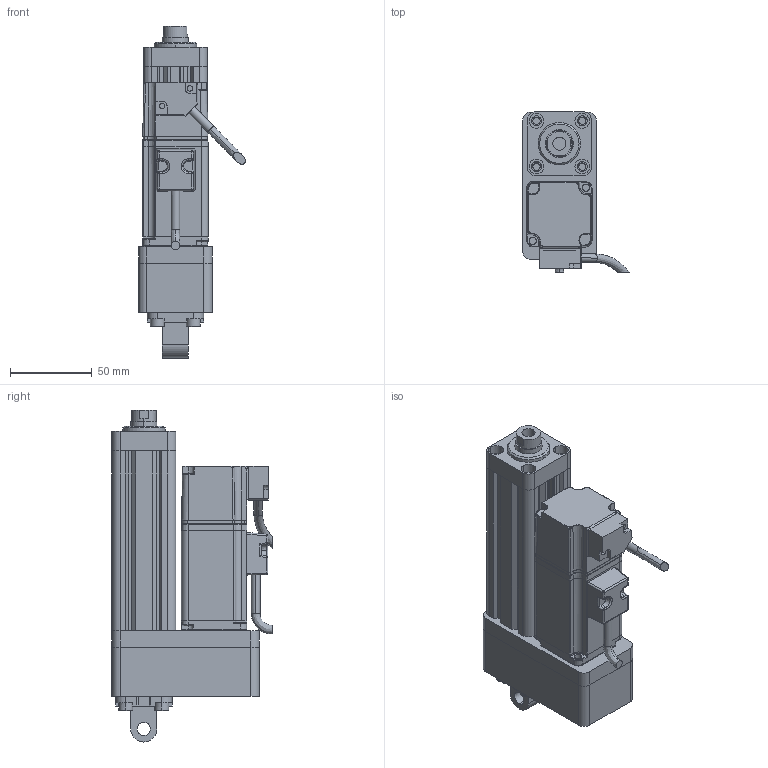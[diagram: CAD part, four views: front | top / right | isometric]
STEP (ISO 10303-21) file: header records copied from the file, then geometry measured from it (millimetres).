
FILE_DESCRIPTION (( 'STEP AP214' ), '1' );
FILE_NAME ('039-S50-D02-B-M5-C2-2.STEP', '2021-03-02T05:05:06', ( '' ), ( '' ), 'SwSTEP 2.0', 'SolidWorks 2018', '' );
FILE_SCHEMA (( 'AUTOMOTIVE_DESIGN' ));
Length unit declared in the file: millimetre
Products named in the file (8): CMC039-DT; CMC039-GT; 039-S50-D02-B-M5-C2-2; CMC039-HXT; CMC039-FL; CMC039-LJB; F-ACE20CA_ACE_; ECMA-CX0401ES-40框號系列機種-100W低慣量系列
Assembly tree (7 placements, depth 2):
  039-S50-D02-B-M5-C2-2
    CMC039-GT
    CMC039-LJB
    CMC039-FL
    CMC039-DT
    ECMA-CX0401ES-40框號系列機種-100W低慣量系列
    CMC039-HXT
    F-ACE20CA_ACE_
Bounding box: 65.33 x 97.89 x 203 mm (x, y, z)
Volume: 383953.9 mm3; surface area: 116177 mm2
Topology: 7 solids, 15 shells, 762 faces, 1992 edges, 1249 vertices
Faces by surface type: cylinder 321, plane 302, bspline 92, cone 47
Entity records: 29754 total; most frequent: CARTESIAN_POINT 11639, ORIENTED_EDGE 3918, DIRECTION 3319, EDGE_CURVE 1959, VERTEX_POINT 1249, AXIS2_PLACEMENT_3D 1176, LINE 967, VECTOR 967
